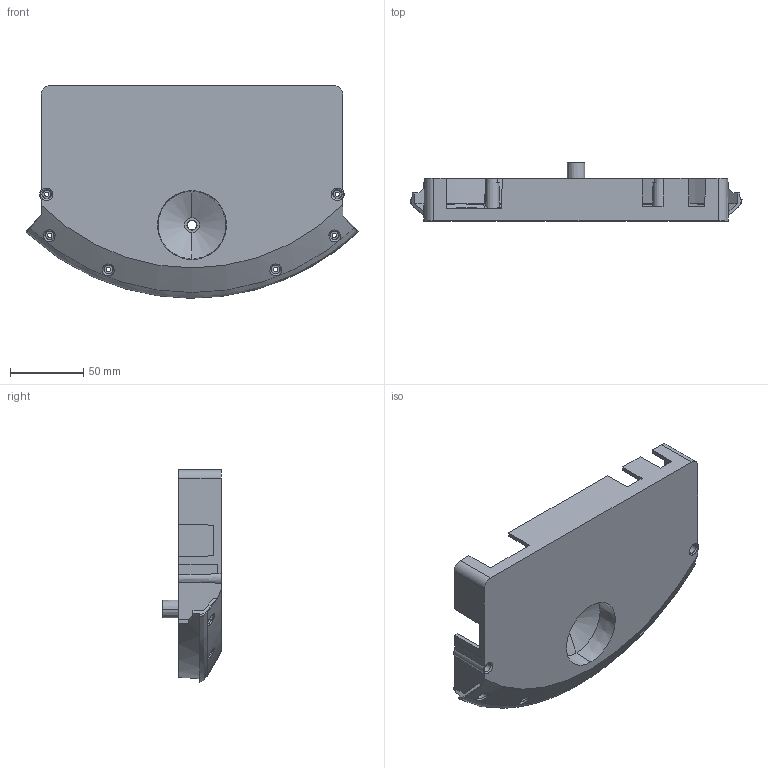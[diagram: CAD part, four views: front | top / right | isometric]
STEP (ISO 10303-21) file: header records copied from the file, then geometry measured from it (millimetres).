
FILE_DESCRIPTION((''),'2;1');
FILE_NAME('C600BINBOTTOM','2014-09-17T',('areichel'),('iRobot'),'PRO/ENGINEER BY PARAMETRIC TECHNOLOGY CORPORATION, 2014090','PRO/ENGINEER BY PARAMETRIC TECHNOLOGY CORPORATION, 2014090','');
FILE_SCHEMA(('CONFIG_CONTROL_DESIGN'));
Length unit declared in the file: millimetre
Products named in the file (1): C600BINBOTTOM
Bounding box: 226.32 x 39.9 x 144.91 mm (x, y, z)
Volume: 119803.8 mm3; surface area: 96365.5 mm2
Topology: 1 solids, 1 shells, 570 faces, 1492 edges, 974 vertices
Faces by surface type: plane 403, cone 104, bspline 30, torus 24, cylinder 6, sphere 3
Entity records: 21203 total; most frequent: CARTESIAN_POINT 7271, ORIENTED_EDGE 2982, DIRECTION 2691, EDGE_CURVE 1491, VECTOR 1063, LINE 1063, VERTEX_POINT 974, AXIS2_PLACEMENT_3D 814
